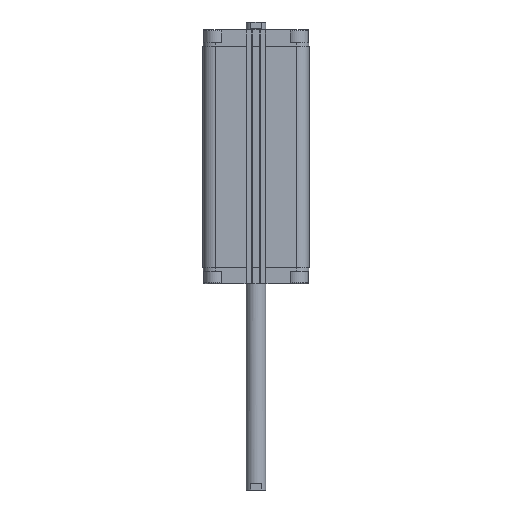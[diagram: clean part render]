
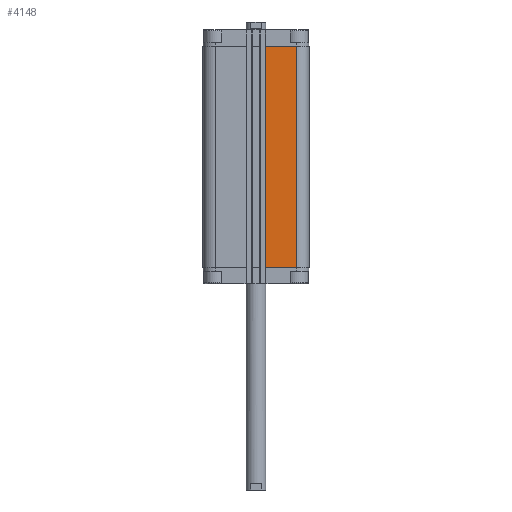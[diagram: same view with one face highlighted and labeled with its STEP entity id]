
A CAD part, front view. The second image highlights one B-rep face of the part: STEP entity #4148.
In plain terms, the highlighted planar face has unit normal (0, -1, 0).
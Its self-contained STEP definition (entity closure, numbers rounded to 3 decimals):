
#586 = ORIENTED_EDGE ( 'NONE', *, *, #7564, .F. ) ;
#1005 = CARTESIAN_POINT ( 'NONE',  ( 9.95, -53.5, -239.5 ) ) ;
#1227 = CARTESIAN_POINT ( 'NONE',  ( 9.95, -53.5, -239.5 ) ) ;
#1730 = DIRECTION ( 'NONE',  ( 0., 0., 1. ) ) ;
#1853 = CARTESIAN_POINT ( 'NONE',  ( 41., -53.5, -239.5 ) ) ;
#3011 = LINE ( 'NONE', #6661, #5019 ) ;
#3071 = DIRECTION ( 'NONE',  ( 1., 0., 0. ) ) ;
#3196 = VERTEX_POINT ( 'NONE', #1853 ) ;
#3232 = DIRECTION ( 'NONE',  ( 0., 0., 1. ) ) ;
#4148 = ADVANCED_FACE ( 'NONE', ( #5957 ), #12514, .T. ) ;
#4150 = CARTESIAN_POINT ( 'NONE',  ( 9.95, -53.5, -239.5 ) ) ;
#5019 = VECTOR ( 'NONE', #1730, 1000. ) ;
#5777 = EDGE_CURVE ( 'NONE', #3196, #6772, #3011, .T. ) ;
#5957 = FACE_OUTER_BOUND ( 'NONE', #18423, .T. ) ;
#6620 = ORIENTED_EDGE ( 'NONE', *, *, #10333, .T. ) ;
#6661 = CARTESIAN_POINT ( 'NONE',  ( 41., -53.5, -239.5 ) ) ;
#6772 = VERTEX_POINT ( 'NONE', #16915 ) ;
#6867 = VECTOR ( 'NONE', #3071, 1000. ) ;
#7564 = EDGE_CURVE ( 'NONE', #11396, #6772, #17036, .T. ) ;
#7584 = ORIENTED_EDGE ( 'NONE', *, *, #5777, .T. ) ;
#9773 = LINE ( 'NONE', #1005, #14454 ) ;
#10333 = EDGE_CURVE ( 'NONE', #14744, #3196, #18858, .T. ) ;
#11396 = VERTEX_POINT ( 'NONE', #13504 ) ;
#11899 = DIRECTION ( 'NONE',  ( 1., 0., 0. ) ) ;
#12514 = PLANE ( 'NONE',  #20206 ) ;
#13504 = CARTESIAN_POINT ( 'NONE',  ( 9.95, -53.5, -16.5 ) ) ;
#14231 = DIRECTION ( 'NONE',  ( 0., -1., 0. ) ) ;
#14454 = VECTOR ( 'NONE', #3232, 1000. ) ;
#14744 = VERTEX_POINT ( 'NONE', #18989 ) ;
#16275 = DIRECTION ( 'NONE',  ( -1., 0., 0. ) ) ;
#16830 = EDGE_CURVE ( 'NONE', #14744, #11396, #9773, .T. ) ;
#16915 = CARTESIAN_POINT ( 'NONE',  ( 41., -53.5, -16.5 ) ) ;
#17036 = LINE ( 'NONE', #20055, #21097 ) ;
#18423 = EDGE_LOOP ( 'NONE', ( #586, #19128, #6620, #7584 ) ) ;
#18858 = LINE ( 'NONE', #4150, #6867 ) ;
#18989 = CARTESIAN_POINT ( 'NONE',  ( 9.95, -53.5, -239.5 ) ) ;
#19128 = ORIENTED_EDGE ( 'NONE', *, *, #16830, .F. ) ;
#20055 = CARTESIAN_POINT ( 'NONE',  ( 9.95, -53.5, -16.5 ) ) ;
#20206 = AXIS2_PLACEMENT_3D ( 'NONE', #1227, #14231, #16275 ) ;
#21097 = VECTOR ( 'NONE', #11899, 1000. ) ;
